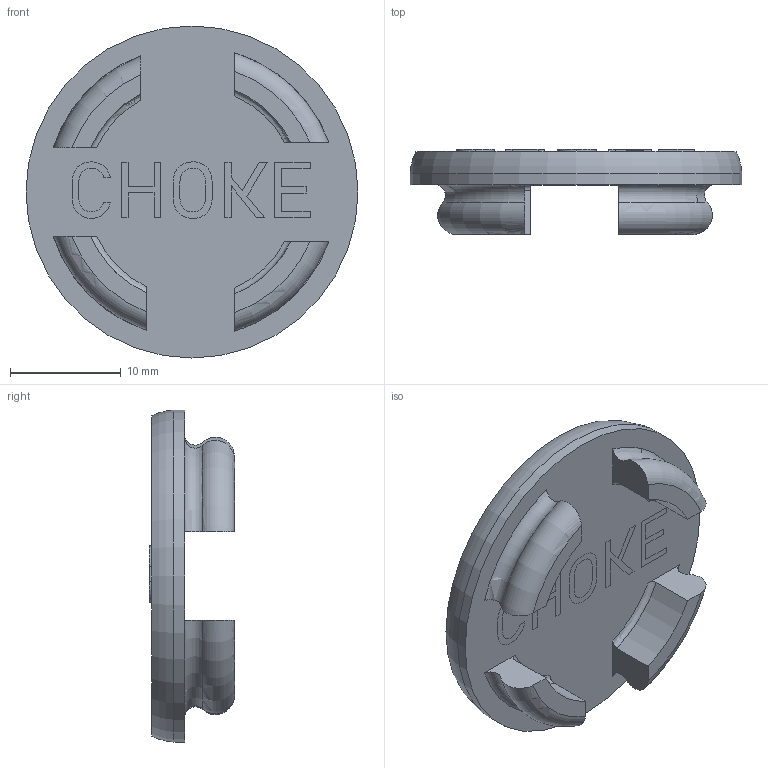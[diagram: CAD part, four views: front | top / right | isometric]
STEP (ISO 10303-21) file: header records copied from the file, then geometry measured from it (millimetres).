
FILE_DESCRIPTION(/* description */ (''),/* implementation_level */ '2;1');
FILE_NAME(/* name */ 'E:\Tomas\Dokument\Inventor\ChokeKnob\ChokeKnobCoverDualColour.stp',/* time_stamp */ '2022-09-27T13:38:07+02:00',/* author */ ('Tomas & Helena'),/* organization */ (''),/* preprocessor_version */ 'ST-DEVELOPER v18.1',/* originating_system */ 'Autodesk Inventor 2021',/* authorisation */ '');
FILE_SCHEMA (('AUTOMOTIVE_DESIGN { 1 0 10303 214 3 1 1 }'));
Length unit declared in the file: millimetre
Products named in the file (3): Assembly1; ChokeKnobCover; ChokeText
Assembly tree (2 placements, depth 2):
  Assembly1
    ChokeKnobCover
    ChokeText
Bounding box: 30 x 7.7 x 30 mm (x, y, z)
Volume: 2659.8 mm3; surface area: 2544.2 mm2
Topology: 6 solids, 6 shells, 102 faces, 258 edges, 172 vertices
Faces by surface type: plane 68, bspline 16, torus 13, cylinder 5
Full cylindrical faces by diameter (mm): 30 x1
Entity records: 3554 total; most frequent: CARTESIAN_POINT 1097, ORIENTED_EDGE 516, DIRECTION 413, EDGE_CURVE 258, LINE 173, VECTOR 173, VERTEX_POINT 172, AXIS2_PLACEMENT_3D 120
